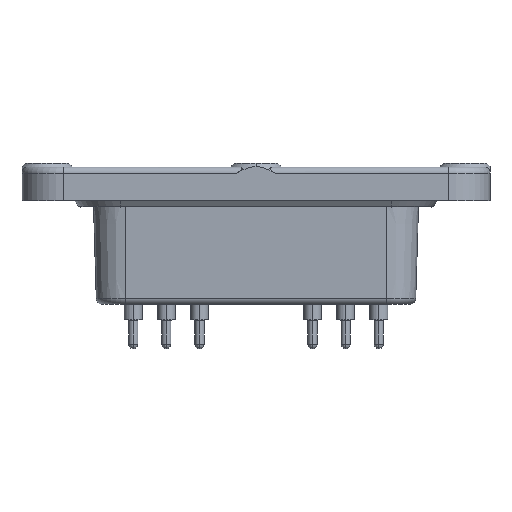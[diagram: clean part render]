
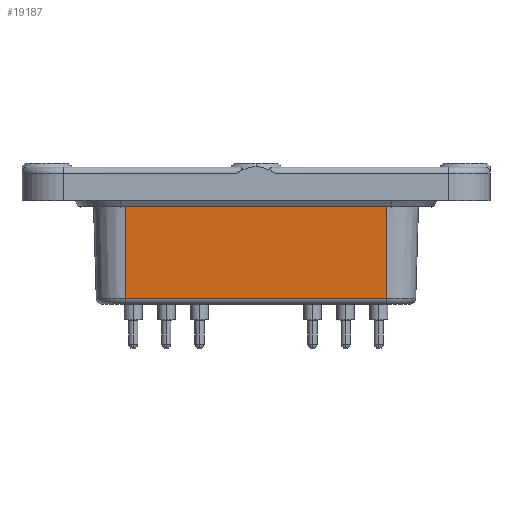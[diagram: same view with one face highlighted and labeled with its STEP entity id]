
A CAD part, front view. The second image highlights one B-rep face of the part: STEP entity #19187.
In plain terms, the highlighted planar face has unit normal (0, -1, -0.03).
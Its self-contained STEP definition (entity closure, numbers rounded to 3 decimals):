
#3047=DIRECTION('',(-1.,0.,0.));
#3048=VECTOR('',#3047,43.18);
#3049=CARTESIAN_POINT('',(21.59,-14.355,-21.747));
#3050=LINE('',#3049,#3048);
#3051=DIRECTION('',(-1.,0.,0.));
#3052=VECTOR('',#3051,43.18);
#3053=CARTESIAN_POINT('',(21.59,-14.812,-6.327));
#3054=LINE('',#3053,#3052);
#3055=DIRECTION('',(0.,0.03,-1.));
#3056=VECTOR('',#3055,15.426);
#3057=CARTESIAN_POINT('',(21.59,-14.812,-6.327));
#3058=LINE('',#3057,#3056);
#3463=DIRECTION('',(0.,0.03,-1.));
#3464=VECTOR('',#3463,15.426);
#3465=CARTESIAN_POINT('',(-21.59,-14.812,-6.327));
#3466=LINE('',#3465,#3464);
#13621=CARTESIAN_POINT('',(21.59,-14.355,-21.747));
#13622=VERTEX_POINT('',#13621);
#13625=CARTESIAN_POINT('',(-21.59,-14.355,-21.747));
#13626=VERTEX_POINT('',#13625);
#13740=CARTESIAN_POINT('',(21.59,-14.812,-6.327));
#13742=VERTEX_POINT('',#13740);
#13745=CARTESIAN_POINT('',(-21.59,-14.812,-6.327));
#13746=VERTEX_POINT('',#13745);
#19173=CARTESIAN_POINT('',(0.,-14.58,-14.161));
#19174=DIRECTION('',(0.,-1.,-0.03));
#19175=DIRECTION('',(-1.,0.,0.));
#19176=AXIS2_PLACEMENT_3D('',#19173,#19174,#19175);
#19177=PLANE('',#19176);
#19179=ORIENTED_EDGE('',*,*,#19178,.T.);
#19181=ORIENTED_EDGE('',*,*,#19180,.F.);
#19182=ORIENTED_EDGE('',*,*,#19167,.F.);
#19184=ORIENTED_EDGE('',*,*,#19183,.T.);
#19185=EDGE_LOOP('',(#19179,#19181,#19182,#19184));
#19186=FACE_OUTER_BOUND('',#19185,.F.);
#19187=ADVANCED_FACE('',(#19186),#19177,.T.);
#19167=EDGE_CURVE('',#13742,#13746,#3054,.T.);
#19178=EDGE_CURVE('',#13622,#13626,#3050,.T.);
#19180=EDGE_CURVE('',#13746,#13626,#3466,.T.);
#19183=EDGE_CURVE('',#13742,#13622,#3058,.T.);
